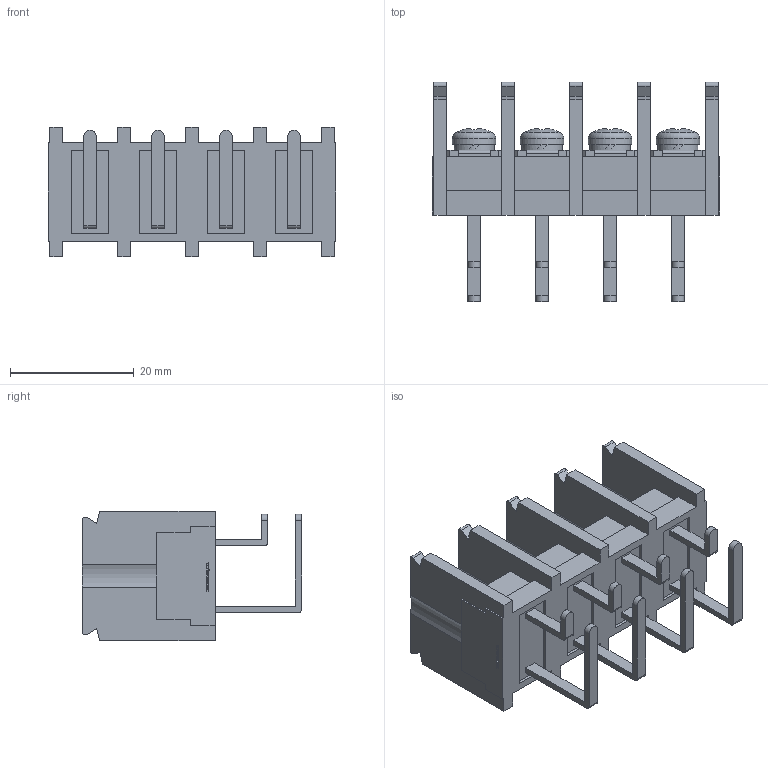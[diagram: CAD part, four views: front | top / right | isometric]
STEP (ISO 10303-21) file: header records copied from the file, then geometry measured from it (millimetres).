
FILE_DESCRIPTION(/* description */ ('Alibre Inc.'),/* implementation_level */ '2;1');
FILE_NAME(/* name */ 'export0',/* time_stamp */ '2015-12-02T12:50:31+09:00',/* author */ (''),/* organization */ (''),/* preprocessor_version */ 'ST-DEVELOPER v14',/* originating_system */ 'Alibre',/* authorisation */ '');
FILE_SCHEMA (('CONFIG_CONTROL_DESIGN'));
Length unit declared in the file: centimetre
Products named in the file (1): ID_1
Bounding box: 46.6 x 35.5 x 21 mm (x, y, z)
Volume: 8945.4 mm3; surface area: 10122.4 mm2
Topology: 1 solids, 17 shells, 838 faces, 2260 edges, 1504 vertices
Faces by surface type: plane 646, bspline 104, cylinder 60, cone 20, sphere 4, torus 4
Full cylindrical faces by diameter (mm): 4 x4, 6.5 x4, 7 x4
Entity records: 25187 total; most frequent: CARTESIAN_POINT 5560, ORIENTED_EDGE 4488, DIRECTION 2969, EDGE_CURVE 2244, VECTOR 1735, LINE 1735, VERTEX_POINT 1504, EDGE_LOOP 918
